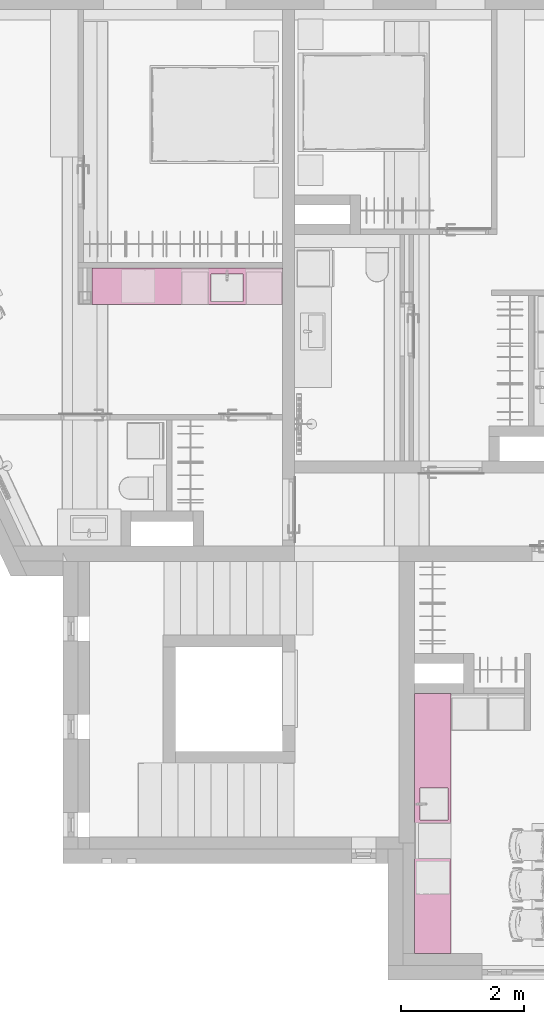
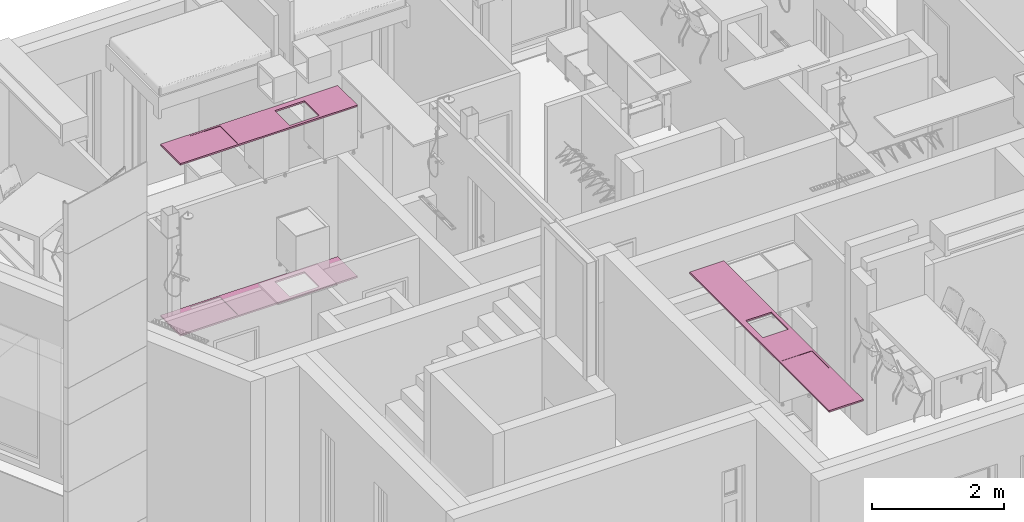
# One storey, part 96 of 125: 3 furnishings.
"""IFC2X3 building model written with IfcOpenShell, lengths in millimetres."""

from ifc_helpers import new_model, entity, si_unit, converted_unit, direction, frame, origin, place, context, subcontext, project, spatial, faceted_brep, source, transform, mapped, material, type_object, type_shapes, element, save


model = new_model("IFC2X3")

# Units and contexts
model_context = context("Model", 3, precision=0.01, world=origin(), true_north=direction((6.123233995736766e-17, 1.0)))
plan_context = context("Plan", 3, precision=0.01, world=origin(), true_north=direction((6.123233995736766e-17, 1.0)))
body_context = subcontext(model_context, "Body", "Model", "MODEL_VIEW")
ifc_project = project(units=[si_unit("LENGTHUNIT", "METRE", prefix="MILLI"), converted_unit("PLANEANGLEUNIT", "DEGREE", entity("IfcPlaneAngleMeasure", 0.017453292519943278), si_unit("PLANEANGLEUNIT", "RADIAN"), dimensions=[0, 0, 0, 0, 0, 0, 0]), si_unit("AREAUNIT", "SQUARE_METRE")], contexts=[model_context, plan_context])

# Site, building, storey, space
site_placement = place(None, origin())
site = spatial("IfcSite", under=ifc_project, at=site_placement, Name="Default", CompositionType="ELEMENT")
building_placement = place(site_placement, origin())
building = spatial("IfcBuilding", under=site, at=building_placement, CompositionType="ELEMENT")
storey_placement = place(building_placement, frame((0.0, 0.0, 3125.0)))
storey = spatial("IfcBuildingStorey", under=building, at=storey_placement, Name="2K", CompositionType="ELEMENT", Elevation=3125.0)
space_1_placement = place(storey_placement, origin())
space_1 = spatial("IfcSpace", under=storey, at=space_1_placement, Name="2-1.2", CompositionType="ELEMENT", InteriorOrExteriorSpace="INTERNAL")

# Furnishings
ifc_material = material(Name="<Unnamed>")
furniture_type_1 = type_object("IfcFurnitureType", Name="HR_Casework_Work-surface_Generic_Rectangular_v1:Default", AssemblyPlace="NOTDEFINED", material=ifc_material)
shared_shape_1 = source(origin(), body_context, "Body", "Brep", [
    faceted_brep([(37.989999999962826, 10587.0, 900.0), (3144.9935349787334, 10587.0, 900.0), (3144.993534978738, 11187.0, 900.0), (37.989999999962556, 11187.0, 900.0), (1059.9935349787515, 10622.0, 900.0), (529.9935349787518, 10622.0, 900.0), (529.9935349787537, 11152.0, 900.0), (1059.9935349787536, 11152.0, 900.0), (2504.993534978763, 10637.0, 900.0), (1984.9935349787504, 10637.0, 900.0), (1984.9935349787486, 11087.0, 900.0), (2504.993534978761, 11087.0, 900.0), (37.989999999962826, 10587.0, 870.0), (37.989999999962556, 11187.0, 870.0), (3144.993534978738, 11187.0, 870.0), (3144.9935349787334, 10587.0, 870.0), (1984.9935349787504, 10637.0, 870.0), (2504.993534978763, 10637.0, 870.0), (2504.993534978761, 11087.0, 870.0), (1984.9935349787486, 11087.0, 870.0), (529.9935349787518, 10622.0, 895.0), (1059.9935349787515, 10622.0, 895.0), (1059.9935349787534, 11152.0, 895.0), (529.9935349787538, 11152.0, 895.0)], [[[0, 1, 2, 3], [4, 5, 6, 7], [8, 9, 10, 11]], [[12, 13, 14, 15], [16, 17, 18, 19]], [[1, 0, 12, 15]], [[2, 1, 15, 14]], [[3, 2, 14, 13]], [[0, 3, 13, 12]], [[20, 21, 22, 23]], [[21, 20, 5, 4]], [[22, 21, 4, 7]], [[23, 22, 7, 6]], [[20, 23, 6, 5]], [[16, 9, 8, 17]], [[17, 8, 11, 18]], [[18, 11, 10, 19]], [[9, 16, 19, 10]]]),
])
type_shapes(furniture_type_1, [shared_shape_1])
furnishing_1_placement = place(space_1_placement, origin())
element("IfcFurnishingElement", 1, at=furnishing_1_placement, inside=space_1, type_object=furniture_type_1, material=ifc_material, Name="HR_Casework_Work-surface_Generic_Rectangular_v1:Default", ObjectType="HR_Casework_Work-surface_Generic_Rectangular_v1:Default", context=body_context, shape_type="MappedRepresentation", body=[
    mapped(shared_shape_1, transform((0.0, 0.0, 0.0), scale=1.0)),
])
furniture_type_2 = type_object("IfcFurnitureType", Name="HR_Casework_Work-surface_Generic_Rectangular_v1:Default", AssemblyPlace="NOTDEFINED", material=ifc_material)
shared_shape_2 = source(origin(), body_context, "Body", "Brep", [
    faceted_brep([(37.989999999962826, 10587.0, 900.0), (3144.9935349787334, 10587.0, 900.0), (3144.993534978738, 11187.0, 900.0), (37.989999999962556, 11187.0, 900.0), (1059.9935349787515, 10622.0, 900.0), (529.9935349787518, 10622.0, 900.0), (529.9935349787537, 11152.0, 900.0), (1059.9935349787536, 11152.0, 900.0), (2504.993534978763, 10637.0, 900.0), (1984.9935349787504, 10637.0, 900.0), (1984.9935349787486, 11087.0, 900.0), (2504.993534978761, 11087.0, 900.0), (37.989999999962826, 10587.0, 870.0), (37.989999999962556, 11187.0, 870.0), (3144.993534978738, 11187.0, 870.0), (3144.9935349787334, 10587.0, 870.0), (1984.9935349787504, 10637.0, 870.0), (2504.993534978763, 10637.0, 870.0), (2504.993534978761, 11087.0, 870.0), (1984.9935349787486, 11087.0, 870.0), (529.9935349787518, 10622.0, 895.0), (1059.9935349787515, 10622.0, 895.0), (1059.9935349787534, 11152.0, 895.0), (529.9935349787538, 11152.0, 895.0)], [[[0, 1, 2, 3], [4, 5, 6, 7], [8, 9, 10, 11]], [[12, 13, 14, 15], [16, 17, 18, 19]], [[1, 0, 12, 15]], [[2, 1, 15, 14]], [[3, 2, 14, 13]], [[0, 3, 13, 12]], [[20, 21, 22, 23]], [[21, 20, 5, 4]], [[22, 21, 4, 7]], [[23, 22, 7, 6]], [[20, 23, 6, 5]], [[16, 9, 8, 17]], [[17, 8, 11, 18]], [[18, 11, 10, 19]], [[9, 16, 19, 10]]]),
])
type_shapes(furniture_type_2, [shared_shape_2])
furnishing_2_placement = place(space_1_placement, frame((0.0, 0.0, 3170.0)))
element("IfcFurnishingElement", 2, at=furnishing_2_placement, inside=space_1, type_object=furniture_type_2, material=ifc_material, Name="HR_Casework_Work-surface_Generic_Rectangular_v1:Default", ObjectType="HR_Casework_Work-surface_Generic_Rectangular_v1:Default", context=body_context, shape_type="MappedRepresentation", body=[
    mapped(shared_shape_2, transform((0.0, 0.0, 0.0), scale=1.0)),
])

# Space
space_2_placement = place(storey_placement, origin())
space_2 = spatial("IfcSpace", under=storey, at=space_2_placement, Name="2-4.2", CompositionType="ELEMENT", InteriorOrExteriorSpace="INTERNAL")

# Furnishing
furniture_type_3 = type_object("IfcFurnitureType", Name="HR_Casework_Work-surface_Generic_Rectangular_v1:Default", AssemblyPlace="NOTDEFINED", material=ifc_material)
shared_shape_3 = source(origin(), body_context, "Body", "Brep", [
    faceted_brep([(5900.0, 0.0, 900.0), (5900.0, 4240.0, 900.0), (5300.0, 4240.0, 900.0), (5300.0, 0.0, 900.0), (5844.995060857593, 2700.0, 900.0), (5844.995060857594, 2180.0, 900.0), (5394.995060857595, 2180.0, 900.0), (5394.995060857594, 2700.0, 900.0), (5865.0, 1505.000040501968, 900.0), (5865.0, 975.0000405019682, 900.0), (5335.0, 975.0000405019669, 900.0), (5335.0, 1505.0000405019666, 900.0), (5900.0, 0.0, 870.0), (5300.0, 0.0, 870.0), (5300.0, 4240.0, 870.0), (5900.0, 4240.0, 870.0), (5844.995060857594, 2180.0, 870.0), (5844.995060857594, 2700.0, 870.0), (5394.995060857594, 2700.0, 870.0), (5394.995060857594, 2180.0, 870.0), (5865.0, 975.0000405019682, 895.0), (5865.0, 1505.000040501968, 895.0), (5335.0, 1505.0000405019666, 895.0), (5335.0, 975.0000405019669, 895.0)], [[[0, 1, 2, 3], [4, 5, 6, 7], [8, 9, 10, 11]], [[12, 13, 14, 15], [16, 17, 18, 19]], [[1, 0, 12, 15]], [[2, 1, 15, 14]], [[3, 2, 14, 13]], [[0, 3, 13, 12]], [[16, 5, 4, 17]], [[17, 4, 7, 18]], [[18, 7, 6, 19]], [[5, 16, 19, 6]], [[20, 21, 22, 23]], [[21, 20, 9, 8]], [[22, 21, 8, 11]], [[23, 22, 11, 10]], [[20, 23, 10, 9]]]),
])
type_shapes(furniture_type_3, [shared_shape_3])
furnishing_3_placement = place(space_2_placement, frame((0.0, 0.0, 3170.0)))
element("IfcFurnishingElement", 3, at=furnishing_3_placement, inside=space_2, type_object=furniture_type_3, material=ifc_material, Name="HR_Casework_Work-surface_Generic_Rectangular_v1:Default", ObjectType="HR_Casework_Work-surface_Generic_Rectangular_v1:Default", context=body_context, shape_type="MappedRepresentation", body=[
    mapped(shared_shape_3, transform((0.0, 0.0, 0.0), scale=1.0)),
])

save(model, "model.ifc")
